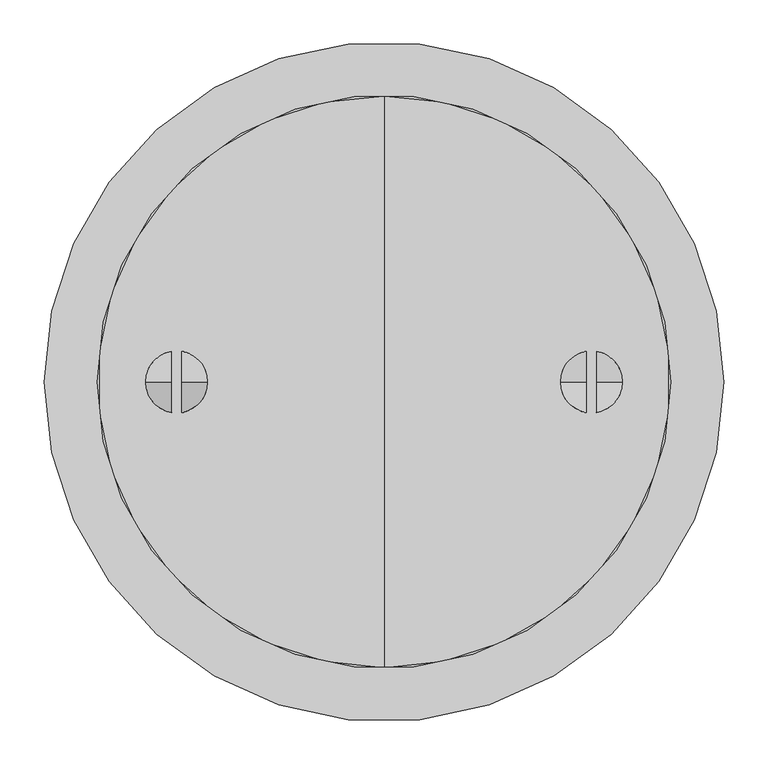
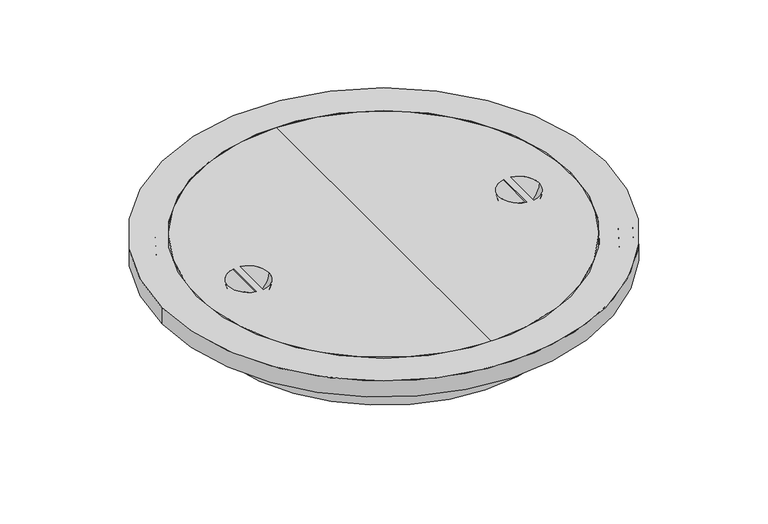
"""IFC4 building model written with IfcOpenShell, lengths in millimetres: proxy geometry, AWS PP Chamber Cover : AWS PP Chamber Cover."""

from ifc_helpers import new_model, si_unit, point, frame, origin, origin_with_axes, place, context, project, spatial, polyline, circle_curve, ellipse_curve, trimmed, source, transform, mapped, element, save
from ifc_brep_helpers import plane_surface, cylinder_surface, revolved_surface, advanced_brep


def generic_models_b64380c1(model_context):
    return source(origin(), model_context, "Body", "AdvancedBrep", [
        advanced_brep(
        [(305.9999723, 0.0, -51.9987901), (-305.9999723, 0.0, -51.9987901), (-305.9999723, 0.0, -99.9988455), (305.9999723, 0.0, -99.9988455), (324.0003741, 0.0, -60.0008312), (-324.0003741, 0.0, -60.0008312), (-324.0003741, 0.0, -51.9987901), (324.0003741, 0.0, -51.9987901), (330.0, 0.0, -13.9986192), (-330.0, 0.0, -13.9986192), (-330.0, 0.0, -60.0008312), (330.0, 0.0, -60.0008312), (339.5000427, 0.0, -31.999021), (-339.5000427, 0.0, -31.999021), (-339.5000427, 0.0, -13.9986192), (339.5000427, 0.0, -13.9986192), (345.5011926, 0.0, -12.9989356), (-345.5011926, 0.0, -12.9989356), (-345.5011926, 0.0, -31.999021), (345.5011926, 0.0, -31.999021), (355.0012353, 0.0, -27.9987624), (-355.0012353, 0.0, -27.9987624), (-355.0012353, 0.0, -12.9989356), (355.0012353, 0.0, -12.9989356), (363.0002286, 0.0, -12.9989356), (-363.0002286, 0.0, -12.9989356), (-363.0002286, 0.0, -27.9987624), (363.0002286, 0.0, -27.9987624), (377.0003717, 0.0, -29.9996537), (-377.0003717, 0.0, -29.9996537), (-377.0003717, 0.0, -12.9989356), (377.0003717, 0.0, -12.9989356), (384.999365, 0.0, 0.0), (-384.999365, 0.0, 0.0), (-384.999365, 0.0, -29.9996537), (384.999365, 0.0, -29.9996537), (325.0015816, 0.0, -29.9996537), (-325.0015816, 0.0, -29.9996537), (-325.0015816, 0.0, 0.0), (325.0015816, 0.0, 0.0), (302.9993974, 0.0, -24.9981875), (-302.9993974, 0.0, -24.9981875), (-302.9993974, 0.0, -29.9996537), (302.9993974, 0.0, -29.9996537), (298.000979, 0.0, -99.9988455), (-298.000979, 0.0, -99.9988455), (-298.000979, 0.0, -24.9981875), (298.000979, 0.0, -24.9981875)],
        [
            (0, 1, circle_curve(frame((0.0, 0.0, -51.9987901), z_axis=(0.0, 0.0, -1.0), x_axis=(-1.0, 0.0, 0.0)), 305.9999723)),
            (1, 2),
            (2, 3, circle_curve(frame((0.0, 0.0, -99.9988455), z_axis=(0.0, 0.0, 1.0), x_axis=(-1.0, 0.0, 0.0)), 305.9999723)),
            (3, 0),
            (4, 5, circle_curve(frame((0.0, 0.0, -60.0008312), z_axis=(0.0, 0.0, -1.0), x_axis=(-1.0, 0.0, 0.0)), 324.0003741)),
            (5, 6),
            (6, 7, circle_curve(frame((0.0, 0.0, -51.9987901), z_axis=(0.0, 0.0, 1.0), x_axis=(-1.0, 0.0, 0.0)), 324.0003741)),
            (7, 4),
            (8, 9, circle_curve(frame((0.0, 0.0, -13.9986192), z_axis=(0.0, 0.0, -1.0), x_axis=(-1.0, 0.0, 0.0)), 330.0)),
            (9, 10),
            (10, 11, circle_curve(frame((0.0, 0.0, -60.0008312), z_axis=(0.0, 0.0, 1.0), x_axis=(-1.0, 0.0, 0.0)), 330.0)),
            (11, 8),
            (12, 13, circle_curve(frame((0.0, 0.0, -31.999021), z_axis=(0.0, 0.0, -1.0), x_axis=(-1.0, 0.0, 0.0)), 339.5000427)),
            (13, 14),
            (14, 15, circle_curve(frame((0.0, 0.0, -13.9986192), z_axis=(0.0, 0.0, 1.0), x_axis=(-1.0, 0.0, 0.0)), 339.5000427)),
            (15, 12),
            (16, 17, circle_curve(frame((0.0, 0.0, -12.9989356), z_axis=(0.0, 0.0, -1.0), x_axis=(-1.0, 0.0, 0.0)), 345.5011926)),
            (17, 18),
            (18, 19, circle_curve(frame((0.0, 0.0, -31.999021), z_axis=(0.0, 0.0, 1.0), x_axis=(-1.0, 0.0, 0.0)), 345.5011926)),
            (19, 16),
            (20, 21, circle_curve(frame((0.0, 0.0, -27.9987624), z_axis=(0.0, 0.0, -1.0), x_axis=(-1.0, 0.0, 0.0)), 355.0012353)),
            (21, 22),
            (22, 23, circle_curve(frame((0.0, 0.0, -12.9989356), z_axis=(0.0, 0.0, 1.0), x_axis=(-1.0, 0.0, 0.0)), 355.0012353)),
            (23, 20),
            (24, 25, circle_curve(frame((0.0, 0.0, -12.9989356), z_axis=(0.0, 0.0, -1.0), x_axis=(-1.0, 0.0, 0.0)), 363.0002286)),
            (25, 26),
            (26, 27, circle_curve(frame((0.0, 0.0, -27.9987624), z_axis=(0.0, 0.0, 1.0), x_axis=(-1.0, 0.0, 0.0)), 363.0002286)),
            (27, 24),
            (28, 29, circle_curve(frame((0.0, 0.0, -29.9996537), z_axis=(0.0, 0.0, -1.0), x_axis=(-1.0, 0.0, 0.0)), 377.0003717)),
            (29, 30),
            (30, 31, circle_curve(frame((0.0, 0.0, -12.9989356), z_axis=(0.0, 0.0, 1.0), x_axis=(-1.0, 0.0, 0.0)), 377.0003717)),
            (31, 28),
            (32, 33, circle_curve(frame((0.0, 0.0, 0.0), z_axis=(0.0, 0.0, -1.0), x_axis=(-1.0, 0.0, 0.0)), 384.999365)),
            (33, 34),
            (34, 35, circle_curve(frame((0.0, 0.0, -29.9996537), z_axis=(0.0, 0.0, 1.0), x_axis=(-1.0, 0.0, 0.0)), 384.999365)),
            (35, 32),
            (36, 37, circle_curve(frame((0.0, 0.0, -29.9996537), z_axis=(0.0, 0.0, -1.0), x_axis=(-1.0, 0.0, 0.0)), 325.0015816)),
            (37, 38),
            (38, 39, circle_curve(frame((0.0, 0.0, 0.0), z_axis=(0.0, 0.0, 1.0), x_axis=(-1.0, 0.0, 0.0)), 325.0015816)),
            (39, 36),
            (40, 41, circle_curve(frame((0.0, 0.0, -24.9981875), z_axis=(0.0, 0.0, -1.0), x_axis=(-1.0, 0.0, 0.0)), 302.9993974)),
            (41, 42),
            (42, 43, circle_curve(frame((0.0, 0.0, -29.9996537), z_axis=(0.0, 0.0, 1.0), x_axis=(-1.0, 0.0, 0.0)), 302.9993974)),
            (43, 40),
            (44, 45, circle_curve(frame((0.0, 0.0, -99.9988455), z_axis=(0.0, 0.0, -1.0), x_axis=(-1.0, 0.0, 0.0)), 298.000979)),
            (45, 46),
            (46, 47, circle_curve(frame((0.0, 0.0, -24.9981875), z_axis=(0.0, 0.0, 1.0), x_axis=(-1.0, 0.0, 0.0)), 298.000979)),
            (47, 44),
            (2, 3, circle_curve(frame((0.0, 0.0, -99.9988455), z_axis=(0.0, 0.0, -1.0), x_axis=(1.0, 0.0, 0.0)), 305.9999723)),
            (44, 45, circle_curve(frame((0.0, 0.0, -99.9988455), z_axis=(0.0, 0.0, 1.0), x_axis=(1.0, 0.0, 0.0)), 298.000979)),
            (1, 0, circle_curve(frame((0.0, 0.0, -51.9987901), z_axis=(0.0, 0.0, -1.0), x_axis=(1.0, 0.0, 0.0)), 305.9999723)),
            (6, 7, circle_curve(frame((0.0, 0.0, -51.9987901), z_axis=(0.0, 0.0, -1.0), x_axis=(1.0, 0.0, 0.0)), 324.0003741)),
            (5, 4, circle_curve(frame((0.0, 0.0, -60.0008312), z_axis=(0.0, 0.0, -1.0), x_axis=(1.0, 0.0, 0.0)), 324.0003741)),
            (10, 11, circle_curve(frame((0.0, 0.0, -60.0008312), z_axis=(0.0, 0.0, -1.0), x_axis=(1.0, 0.0, 0.0)), 330.0)),
            (9, 8, circle_curve(frame((0.0, 0.0, -13.9986192), z_axis=(0.0, 0.0, -1.0), x_axis=(1.0, 0.0, 0.0)), 330.0)),
            (14, 15, circle_curve(frame((0.0, 0.0, -13.9986192), z_axis=(0.0, 0.0, -1.0), x_axis=(1.0, 0.0, 0.0)), 339.5000427)),
            (13, 12, circle_curve(frame((0.0, 0.0, -31.999021), z_axis=(0.0, 0.0, -1.0), x_axis=(1.0, 0.0, 0.0)), 339.5000427)),
            (18, 19, circle_curve(frame((0.0, 0.0, -31.999021), z_axis=(0.0, 0.0, -1.0), x_axis=(1.0, 0.0, 0.0)), 345.5011926)),
            (17, 16, circle_curve(frame((0.0, 0.0, -12.9989356), z_axis=(0.0, 0.0, -1.0), x_axis=(1.0, 0.0, 0.0)), 345.5011926)),
            (22, 23, circle_curve(frame((0.0, 0.0, -12.9989356), z_axis=(0.0, 0.0, -1.0), x_axis=(1.0, 0.0, 0.0)), 355.0012353)),
            (21, 20, circle_curve(frame((0.0, 0.0, -27.9987624), z_axis=(0.0, 0.0, -1.0), x_axis=(1.0, 0.0, 0.0)), 355.0012353)),
            (26, 27, circle_curve(frame((0.0, 0.0, -27.9987624), z_axis=(0.0, 0.0, -1.0), x_axis=(1.0, 0.0, 0.0)), 363.0002286)),
            (25, 24, circle_curve(frame((0.0, 0.0, -12.9989356), z_axis=(0.0, 0.0, -1.0), x_axis=(1.0, 0.0, 0.0)), 363.0002286)),
            (30, 31, circle_curve(frame((0.0, 0.0, -12.9989356), z_axis=(0.0, 0.0, -1.0), x_axis=(1.0, 0.0, 0.0)), 377.0003717)),
            (29, 28, circle_curve(frame((0.0, 0.0, -29.9996537), z_axis=(0.0, 0.0, -1.0), x_axis=(1.0, 0.0, 0.0)), 377.0003717)),
            (34, 35, circle_curve(frame((0.0, 0.0, -29.9996537), z_axis=(0.0, 0.0, -1.0), x_axis=(1.0, 0.0, 0.0)), 384.999365)),
            (33, 32, circle_curve(frame((0.0, 0.0, 0.0), z_axis=(0.0, 0.0, -1.0), x_axis=(1.0, 0.0, 0.0)), 384.999365)),
            (38, 39, circle_curve(frame((0.0, 0.0, 0.0), z_axis=(0.0, 0.0, -1.0), x_axis=(1.0, 0.0, 0.0)), 325.0015816)),
            (37, 36, circle_curve(frame((0.0, 0.0, -29.9996537), z_axis=(0.0, 0.0, -1.0), x_axis=(1.0, 0.0, 0.0)), 325.0015816)),
            (42, 43, circle_curve(frame((0.0, 0.0, -29.9996537), z_axis=(0.0, 0.0, -1.0), x_axis=(1.0, 0.0, 0.0)), 302.9993974)),
            (41, 40, circle_curve(frame((0.0, 0.0, -24.9981875), z_axis=(0.0, 0.0, -1.0), x_axis=(1.0, 0.0, 0.0)), 302.9993974)),
            (46, 47, circle_curve(frame((0.0, 0.0, -24.9981875), z_axis=(0.0, 0.0, -1.0), x_axis=(1.0, 0.0, 0.0)), 298.000979)),
        ],
        [
            cylinder_surface(frame((0.0, 0.0, 0.0), z_axis=(0.0, 0.0, 1.0), x_axis=(-1.0, 0.0, 0.0)), 305.9999723),
            revolved_surface(polyline([(-324.0003741, 0.0, -51.9987901), (-324.0003741, 0.0, -60.0008312)]), (0.0, 0.0, 0.0), (0.0, 0.0, 1.0)),
            cylinder_surface(frame((0.0, 0.0, 0.0), z_axis=(0.0, 0.0, 1.0), x_axis=(-1.0, 0.0, 0.0)), 330.0),
            revolved_surface(polyline([(-339.5000427, 0.0, -13.9986192), (-339.5000427, 0.0, -31.999021)]), (0.0, 0.0, 0.0), (0.0, 0.0, 1.0)),
            cylinder_surface(frame((0.0, 0.0, 0.0), z_axis=(0.0, 0.0, 1.0), x_axis=(-1.0, 0.0, 0.0)), 345.5011926),
            revolved_surface(polyline([(-355.0012353, 0.0, -12.9989356), (-355.0012353, 0.0, -27.9987624)]), (0.0, 0.0, 0.0), (0.0, 0.0, 1.0)),
            cylinder_surface(frame((0.0, 0.0, 0.0), z_axis=(0.0, 0.0, 1.0), x_axis=(-1.0, 0.0, 0.0)), 363.0002286),
            revolved_surface(polyline([(-377.0003717, 0.0, -12.9989356), (-377.0003717, 0.0, -29.9996537)]), (0.0, 0.0, 0.0), (0.0, 0.0, 1.0)),
            cylinder_surface(frame((0.0, 0.0, 0.0), z_axis=(0.0, 0.0, 1.0), x_axis=(-1.0, 0.0, 0.0)), 384.999365),
            revolved_surface(polyline([(-325.0015816, 0.0, 0.0), (-325.0015816, 0.0, -29.9996537)]), (0.0, 0.0, 0.0), (0.0, 0.0, 1.0)),
            cylinder_surface(frame((0.0, 0.0, 0.0), z_axis=(0.0, 0.0, 1.0), x_axis=(-1.0, 0.0, 0.0)), 302.9993974),
            revolved_surface(polyline([(-298.000979, 0.0, -24.9981875), (-298.000979, 0.0, -99.9988455)]), (0.0, 0.0, 0.0), (0.0, 0.0, 1.0)),
            plane_surface(frame((0.0, 0.0, -99.9988455), z_axis=(0.0, 0.0, -1.0), x_axis=(1.0, 0.0, 0.0))),
            cylinder_surface(origin_with_axes(), 305.9999723),
            plane_surface(frame((0.0, 0.0, -51.9987901), z_axis=(0.0, 0.0, -1.0), x_axis=(1.0, 0.0, 0.0))),
            revolved_surface(polyline([(324.0003741, 0.0, -51.9987901), (324.0003741, 0.0, -60.0008312)]), (0.0, 0.0, 0.0), (0.0, 0.0, 1.0)),
            plane_surface(frame((0.0, 0.0, -60.0008312), z_axis=(0.0, 0.0, -1.0), x_axis=(1.0, 0.0, 0.0))),
            cylinder_surface(origin_with_axes(), 330.0),
            plane_surface(frame((0.0, 0.0, -13.9986192), z_axis=(0.0, 0.0, -1.0), x_axis=(1.0, 0.0, 0.0))),
            revolved_surface(polyline([(339.5000427, 0.0, -13.9986192), (339.5000427, 0.0, -31.999021)]), (0.0, 0.0, 0.0), (0.0, 0.0, 1.0)),
            plane_surface(frame((0.0, 0.0, -31.999021), z_axis=(0.0, 0.0, -1.0), x_axis=(1.0, 0.0, 0.0))),
            cylinder_surface(origin_with_axes(), 345.5011926),
            plane_surface(frame((0.0, 0.0, -12.9989356), z_axis=(0.0, 0.0, -1.0), x_axis=(1.0, 0.0, 0.0))),
            revolved_surface(polyline([(355.0012353, 0.0, -12.9989356), (355.0012353, 0.0, -27.9987624)]), (0.0, 0.0, 0.0), (0.0, 0.0, 1.0)),
            plane_surface(frame((0.0, 0.0, -27.9987624), z_axis=(0.0, 0.0, -1.0), x_axis=(1.0, 0.0, 0.0))),
            cylinder_surface(origin_with_axes(), 363.0002286),
            revolved_surface(polyline([(377.0003717, 0.0, -12.9989356), (377.0003717, 0.0, -29.9996537)]), (0.0, 0.0, 0.0), (0.0, 0.0, 1.0)),
            plane_surface(frame((0.0, 0.0, -29.9996537), z_axis=(0.0, 0.0, -1.0), x_axis=(1.0, 0.0, 0.0))),
            cylinder_surface(origin_with_axes(), 384.999365),
            plane_surface(origin_with_axes()),
            revolved_surface(polyline([(325.0015816, 0.0, 0.0), (325.0015816, 0.0, -29.9996537)]), (0.0, 0.0, 0.0), (0.0, 0.0, 1.0)),
            plane_surface(frame((0.0, 0.0, -29.9996537), z_axis=(0.0, 0.0, 1.0), x_axis=(1.0, 0.0, 0.0))),
            cylinder_surface(origin_with_axes(), 302.9993974),
            plane_surface(frame((0.0, 0.0, -24.9981875), z_axis=(0.0, 0.0, 1.0), x_axis=(1.0, 0.0, 0.0))),
            revolved_surface(polyline([(298.000979, 0.0, -24.9981875), (298.000979, 0.0, -99.9988455)]), (0.0, 0.0, 0.0), (0.0, 0.0, 1.0)),
        ],
        [
            (0, [[1, 2, 3, 4]]),
            (1, [[5, 6, 7, 8]]),
            (2, [[9, 10, 11, 12]]),
            (3, [[13, 14, 15, 16]]),
            (4, [[17, 18, 19, 20]]),
            (5, [[21, 22, 23, 24]]),
            (6, [[25, 26, 27, 28]]),
            (7, [[29, 30, 31, 32]]),
            (8, [[33, 34, 35, 36]]),
            (9, [[37, 38, 39, 40]]),
            (10, [[41, 42, 43, 44]]),
            (11, [[45, 46, 47, 48]]),
            (12, [[49, -3], [50, -45]]),
            (13, [[51, -4, -49, -2]]),
            (14, [[52, -7], [-51, -1]]),
            (15, [[53, -8, -52, -6]]),
            (16, [[54, -11], [-53, -5]]),
            (17, [[55, -12, -54, -10]]),
            (18, [[56, -15], [-55, -9]]),
            (19, [[57, -16, -56, -14]]),
            (20, [[58, -19], [-57, -13]]),
            (21, [[59, -20, -58, -18]]),
            (22, [[60, -23], [-59, -17]]),
            (23, [[61, -24, -60, -22]]),
            (24, [[62, -27], [-61, -21]]),
            (25, [[63, -28, -62, -26]]),
            (22, [[64, -31], [-63, -25]]),
            (26, [[65, -32, -64, -30]]),
            (27, [[66, -35], [-65, -29]]),
            (28, [[67, -36, -66, -34]]),
            (29, [[-67, -33], [68, -39]]),
            (30, [[69, -40, -68, -38]]),
            (31, [[-69, -37], [70, -43]]),
            (32, [[71, -44, -70, -42]]),
            (33, [[-71, -41], [72, -47]]),
            (34, [[-50, -48, -72, -46]]),
        ],
    ),
        advanced_brep(
        [(0.0, 302.9986354, -29.9996537), (0.0, -302.9986354, -29.9996537), (0.0, -323.9996121, -29.9996537), (0.0, 323.9996121, -29.9996537), (0.0, 302.9986354, -23.9985038), (0.0, -302.9986354, -23.9985038), (0.0, 297.0005334, -23.9985038), (0.0, -297.0005334, -23.9985038), (0.0, 297.0005334, -49.9978989), (0.0, -297.0005334, -49.9978989), (0.0, 289.9996998, -49.9978989), (0.0, -289.9996998, -49.9978989), (0.0, 289.9996998, -13.9986192), (0.0, -289.9996998, -13.9986192), (0.0, 272.4991399, -13.9986192), (0.0, -272.4991399, -13.9986192), (0.0, 272.4991399, -43.9997968), (0.0, -272.4991399, -43.9997968), (0.0, 149.9997922, -43.9997968), (0.0, -149.9997922, -43.9997968), (0.0, 149.9997922, -13.9986192), (0.0, -149.9997922, -13.9986192), (0.0, 124.9985569, -13.9986192), (0.0, -124.9985569, -13.9986192), (0.0, 124.9985569, -49.9978989), (0.0, -124.9985569, -49.9978989), (0.0, 115.0001963, -49.9978989), (0.0, -115.0001963, -49.9978989), (0.0, 115.0001963, -13.9986192), (0.0, -115.0001963, -13.9986192), (0.0, 29.9996537, -13.9986192), (0.0, -29.9996537, -13.9986192), (0.0, 29.9996537, -49.9978989), (0.0, -29.9996537, -49.9978989), (0.0, 0.0, -49.9978989), (0.0, 323.9996121, 0.0), (0.0, -323.9996121, 0.0), (0.0, 0.0, 0.0), (-229.0, 34.4675478, 0.0), (-200.0141192, 0.0, 0.0), (-229.0, -34.4675478, 0.0), (-269.9858808, 0.0, 0.0), (-241.0, 34.4675478, 0.0), (-241.0, -34.4675478, 0.0), (200.0141192, 0.0, 0.0), (229.0, 34.4675478, 0.0), (229.0, -34.4675478, 0.0), (269.9858808, 0.0, 0.0), (241.0, -34.4675478, 0.0), (241.0, 34.4675478, 0.0), (-235.0, 0.0, -34.9858808), (235.0, 0.0, -34.9858808)],
        [
            (0, 1, circle_curve(frame((0.0, 0.0, -29.9996537), z_axis=(0.0, 0.0, 1.0), x_axis=(0.0, -1.0, 0.0)), 302.9986354)),
            (1, 2),
            (2, 3, circle_curve(frame((0.0, 0.0, -29.9996537), z_axis=(0.0, 0.0, -1.0), x_axis=(0.0, -1.0, 0.0)), 323.9996121)),
            (3, 0),
            (1, 0, circle_curve(frame((0.0, 0.0, -29.9996537), z_axis=(0.0, 0.0, 1.0), x_axis=(0.0, -1.0, 0.0)), 302.9986354)),
            (3, 2, circle_curve(frame((0.0, 0.0, -29.9996537), z_axis=(0.0, 0.0, -1.0), x_axis=(0.0, -1.0, 0.0)), 323.9996121)),
            (0, 4),
            (4, 5, circle_curve(frame((0.0, 0.0, -23.9985038), z_axis=(0.0, 0.0, 1.0), x_axis=(0.0, -1.0, 0.0)), 302.9986354)),
            (5, 1),
            (5, 4, circle_curve(frame((0.0, 0.0, -23.9985038), z_axis=(0.0, 0.0, 1.0), x_axis=(0.0, -1.0, 0.0)), 302.9986354)),
            (4, 6),
            (6, 7, circle_curve(frame((0.0, 0.0, -23.9985038), z_axis=(0.0, 0.0, 1.0), x_axis=(0.0, -1.0, 0.0)), 297.0005334)),
            (7, 5),
            (7, 6, circle_curve(frame((0.0, 0.0, -23.9985038), z_axis=(0.0, 0.0, 1.0), x_axis=(0.0, -1.0, 0.0)), 297.0005334)),
            (6, 8),
            (8, 9, circle_curve(frame((0.0, 0.0, -49.9978989), z_axis=(0.0, 0.0, 1.0), x_axis=(0.0, -1.0, 0.0)), 297.0005334)),
            (9, 7),
            (9, 8, circle_curve(frame((0.0, 0.0, -49.9978989), z_axis=(0.0, 0.0, 1.0), x_axis=(0.0, -1.0, 0.0)), 297.0005334)),
            (8, 10),
            (10, 11, circle_curve(frame((0.0, 0.0, -49.9978989), z_axis=(0.0, 0.0, 1.0), x_axis=(0.0, -1.0, 0.0)), 289.9996998)),
            (11, 9),
            (11, 10, circle_curve(frame((0.0, 0.0, -49.9978989), z_axis=(0.0, 0.0, 1.0), x_axis=(0.0, -1.0, 0.0)), 289.9996998)),
            (10, 12),
            (12, 13, circle_curve(frame((0.0, 0.0, -13.9986192), z_axis=(0.0, 0.0, 1.0), x_axis=(0.0, -1.0, 0.0)), 289.9996998)),
            (13, 11),
            (13, 12, circle_curve(frame((0.0, 0.0, -13.9986192), z_axis=(0.0, 0.0, 1.0), x_axis=(0.0, -1.0, 0.0)), 289.9996998)),
            (12, 14),
            (14, 15, circle_curve(frame((0.0, 0.0, -13.9986192), z_axis=(0.0, 0.0, 1.0), x_axis=(0.0, -1.0, 0.0)), 272.4991399)),
            (15, 13),
            (15, 14, circle_curve(frame((0.0, 0.0, -13.9986192), z_axis=(0.0, 0.0, 1.0), x_axis=(0.0, -1.0, 0.0)), 272.4991399)),
            (14, 16),
            (16, 17, circle_curve(frame((0.0, 0.0, -43.9997968), z_axis=(0.0, 0.0, 1.0), x_axis=(0.0, -1.0, 0.0)), 272.4991399)),
            (17, 15),
            (17, 16, circle_curve(frame((0.0, 0.0, -43.9997968), z_axis=(0.0, 0.0, 1.0), x_axis=(0.0, -1.0, 0.0)), 272.4991399)),
            (16, 18),
            (18, 19, circle_curve(frame((0.0, 0.0, -43.9997968), z_axis=(0.0, 0.0, 1.0), x_axis=(0.0, -1.0, 0.0)), 149.9997922)),
            (19, 17),
            (19, 18, circle_curve(frame((0.0, 0.0, -43.9997968), z_axis=(0.0, 0.0, 1.0), x_axis=(0.0, -1.0, 0.0)), 149.9997922)),
            (18, 20),
            (20, 21, circle_curve(frame((0.0, 0.0, -13.9986192), z_axis=(0.0, 0.0, 1.0), x_axis=(0.0, -1.0, 0.0)), 149.9997922)),
            (21, 19),
            (21, 20, circle_curve(frame((0.0, 0.0, -13.9986192), z_axis=(0.0, 0.0, 1.0), x_axis=(0.0, -1.0, 0.0)), 149.9997922)),
            (20, 22),
            (22, 23, circle_curve(frame((0.0, 0.0, -13.9986192), z_axis=(0.0, 0.0, 1.0), x_axis=(0.0, -1.0, 0.0)), 124.9985569)),
            (23, 21),
            (23, 22, circle_curve(frame((0.0, 0.0, -13.9986192), z_axis=(0.0, 0.0, 1.0), x_axis=(0.0, -1.0, 0.0)), 124.9985569)),
            (22, 24),
            (24, 25, circle_curve(frame((0.0, 0.0, -49.9978989), z_axis=(0.0, 0.0, 1.0), x_axis=(0.0, -1.0, 0.0)), 124.9985569)),
            (25, 23),
            (25, 24, circle_curve(frame((0.0, 0.0, -49.9978989), z_axis=(0.0, 0.0, 1.0), x_axis=(0.0, -1.0, 0.0)), 124.9985569)),
            (24, 26),
            (26, 27, circle_curve(frame((0.0, 0.0, -49.9978989), z_axis=(0.0, 0.0, 1.0), x_axis=(0.0, -1.0, 0.0)), 115.0001963)),
            (27, 25),
            (27, 26, circle_curve(frame((0.0, 0.0, -49.9978989), z_axis=(0.0, 0.0, 1.0), x_axis=(0.0, -1.0, 0.0)), 115.0001963)),
            (26, 28),
            (28, 29, circle_curve(frame((0.0, 0.0, -13.9986192), z_axis=(0.0, 0.0, 1.0), x_axis=(0.0, -1.0, 0.0)), 115.0001963)),
            (29, 27),
            (29, 28, circle_curve(frame((0.0, 0.0, -13.9986192), z_axis=(0.0, 0.0, 1.0), x_axis=(0.0, -1.0, 0.0)), 115.0001963)),
            (28, 30),
            (30, 31, circle_curve(frame((0.0, 0.0, -13.9986192), z_axis=(0.0, 0.0, 1.0), x_axis=(0.0, -1.0, 0.0)), 29.9996537)),
            (31, 29),
            (31, 30, circle_curve(frame((0.0, 0.0, -13.9986192), z_axis=(0.0, 0.0, 1.0), x_axis=(0.0, -1.0, 0.0)), 29.9996537)),
            (30, 32),
            (32, 33, circle_curve(frame((0.0, 0.0, -49.9978989), z_axis=(0.0, 0.0, 1.0), x_axis=(0.0, -1.0, 0.0)), 29.9996537)),
            (33, 31),
            (33, 32, circle_curve(frame((0.0, 0.0, -49.9978989), z_axis=(0.0, 0.0, 1.0), x_axis=(0.0, -1.0, 0.0)), 29.9996537)),
            (32, 34),
            (34, 33),
            (35, 36, circle_curve(frame((0.0, 0.0, 0.0), z_axis=(0.0, 0.0, 1.0), x_axis=(0.0, -1.0, 0.0)), 323.9996121)),
            (36, 37),
            (37, 35),
            (38, 39, circle_curve(frame((-235.0, 0.0, 0.0), z_axis=(0.0, 0.0, -1.0), x_axis=(-1.0, 0.0, 0.0)), 34.9858808)),
            (39, 40, circle_curve(frame((-235.0, 0.0, 0.0), z_axis=(0.0, 0.0, -1.0), x_axis=(-1.0, 0.0, 0.0)), 34.9858808)),
            (40, 38),
            (41, 42, circle_curve(frame((-235.0, 0.0, 0.0), z_axis=(0.0, 0.0, -1.0), x_axis=(-1.0, 0.0, 0.0)), 34.9858808)),
            (42, 43),
            (43, 41, circle_curve(frame((-235.0, 0.0, 0.0), z_axis=(0.0, 0.0, -1.0), x_axis=(-1.0, 0.0, 0.0)), 34.9858808)),
            (36, 35, circle_curve(frame((0.0, 0.0, 0.0), z_axis=(0.0, 0.0, 1.0), x_axis=(0.0, -1.0, 0.0)), 323.9996121)),
            (44, 45, circle_curve(frame((235.0, 0.0, 0.0), z_axis=(0.0, 0.0, -1.0), x_axis=(1.0, 0.0, 0.0)), 34.9858808)),
            (45, 46),
            (46, 44, circle_curve(frame((235.0, 0.0, 0.0), z_axis=(0.0, 0.0, -1.0), x_axis=(1.0, 0.0, 0.0)), 34.9858808)),
            (47, 48, circle_curve(frame((235.0, 0.0, 0.0), z_axis=(0.0, 0.0, -1.0), x_axis=(1.0, 0.0, 0.0)), 34.9858808)),
            (48, 49),
            (49, 47, circle_curve(frame((235.0, 0.0, 0.0), z_axis=(0.0, 0.0, -1.0), x_axis=(1.0, 0.0, 0.0)), 34.9858808)),
            (2, 36),
            (35, 3),
            (50, 39, circle_curve(frame((-235.0, 0.0, 0.0), z_axis=(0.0, -1.0, 0.0), x_axis=(-1.0, 0.0, 0.0)), 34.9858808)),
            (38, 42, circle_curve(frame((-235.0, 34.4675478, 0.0), z_axis=(0.0, 1.0, 0.0), x_axis=(1.0, 0.0, 0.0)), 6.0)),
            (41, 50, circle_curve(frame((-235.0, 0.0, 0.0), z_axis=(0.0, -1.0, 0.0), x_axis=(1.0, 0.0, 0.0)), 34.9858808)),
            (43, 40, circle_curve(frame((-235.0, -34.4675478, 0.0), z_axis=(0.0, -1.0, 0.0), x_axis=(1.0, 0.0, 0.0)), 6.0)),
            (44, 51, circle_curve(frame((235.0, 0.0, 0.0), z_axis=(0.0, -1.0, 0.0), x_axis=(1.0, 0.0, 0.0)), 34.9858808)),
            (51, 47, circle_curve(frame((235.0, 0.0, 0.0), z_axis=(0.0, -1.0, 0.0), x_axis=(-1.0, 0.0, 0.0)), 34.9858808)),
            (49, 45, circle_curve(frame((235.0, 34.4675478, 0.0), z_axis=(0.0, 1.0, 0.0), x_axis=(-1.0, 0.0, 0.0)), 6.0)),
            (46, 48, circle_curve(frame((235.0, -34.4675478, 0.0), z_axis=(0.0, -1.0, 0.0), x_axis=(-1.0, 0.0, 0.0)), 6.0)),
        ],
        [
            plane_surface(frame((0.0, 0.0, -29.9996537), z_axis=(0.0, 0.0, -1.0), x_axis=(0.0, -1.0, 0.0))),
            revolved_surface(polyline([(0.0, -302.9986354, -29.999653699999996), (0.0, -302.9986354, -23.998503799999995)]), (0.0, 0.0, -99.9988455), (0.0, 0.0, -1.0)),
            plane_surface(frame((0.0, 0.0, -23.9985038), z_axis=(0.0, 0.0, -1.0), x_axis=(0.0, -1.0, 0.0))),
            cylinder_surface(frame((0.0, 0.0, -99.9988455), z_axis=(0.0, 0.0, -1.0), x_axis=(0.0, -1.0, 0.0)), 297.0005334),
            plane_surface(frame((0.0, 0.0, -49.9978989), z_axis=(0.0, 0.0, -1.0), x_axis=(0.0, -1.0, 0.0))),
            revolved_surface(polyline([(0.0, -289.9996998, -49.9978989), (0.0, -289.9996998, -13.998619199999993)]), (0.0, 0.0, -99.9988455), (0.0, 0.0, -1.0)),
            plane_surface(frame((0.0, 0.0, -13.9986192), z_axis=(0.0, 0.0, -1.0), x_axis=(0.0, -1.0, 0.0))),
            cylinder_surface(frame((0.0, 0.0, -99.9988455), z_axis=(0.0, 0.0, -1.0), x_axis=(0.0, -1.0, 0.0)), 272.4991399),
            plane_surface(frame((0.0, 0.0, -43.9997968), z_axis=(0.0, 0.0, -1.0), x_axis=(0.0, -1.0, 0.0))),
            revolved_surface(polyline([(0.0, -149.9997922, -43.9997968), (0.0, -149.9997922, -13.998619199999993)]), (0.0, 0.0, -99.9988455), (0.0, 0.0, -1.0)),
            cylinder_surface(frame((0.0, 0.0, -99.9988455), z_axis=(0.0, 0.0, -1.0), x_axis=(0.0, -1.0, 0.0)), 124.9985569),
            revolved_surface(polyline([(0.0, -115.0001963, -49.9978989), (0.0, -115.0001963, -13.998619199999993)]), (0.0, 0.0, -99.9988455), (0.0, 0.0, -1.0)),
            cylinder_surface(frame((0.0, 0.0, -99.9988455), z_axis=(0.0, 0.0, -1.0), x_axis=(0.0, -1.0, 0.0)), 29.9996537),
            plane_surface(frame((0.0, 0.0, 0.0), z_axis=(0.0, 0.0, 1.0), x_axis=(0.0, -1.0, 0.0))),
            cylinder_surface(frame((0.0, 0.0, -99.9988455), z_axis=(0.0, 0.0, -1.0), x_axis=(0.0, -1.0, 0.0)), 323.9996121),
            revolved_surface(trimmed(ellipse_curve(frame((-235.0, 0.0, 0.0), z_axis=(0.0, 1.0, 0.0), x_axis=(1.0, 0.0, 0.0)), 34.9858808, 34.9858808), [point((-235.0, 0.0, -34.9858808))], [point((-269.9858808, 0.0, 0.0))], True, "CARTESIAN"), (-235.0, 0.0, 0.0), (0.0, 0.0, -1.0)),
            cylinder_surface(frame((-235.0, 35.0, 0.0), z_axis=(0.0, -1.0, 0.0), x_axis=(1.0, 0.0, 0.0)), 6.0),
            revolved_surface(trimmed(ellipse_curve(frame((235.0, 0.0, 0.0), z_axis=(0.0, 1.0, 0.0), x_axis=(-1.0, 0.0, 0.0)), 34.9858808, 34.9858808), [point((269.9858808, 0.0, 0.0))], [point((235.0, 0.0, -34.9858808))], True, "CARTESIAN"), (235.0, 0.0, 0.0), (0.0, 0.0, 1.0)),
            cylinder_surface(frame((235.0, 35.0, 0.0), z_axis=(0.0, -1.0, 0.0), x_axis=(-1.0, 0.0, 0.0)), 6.0),
        ],
        [
            (0, [[1, 2, 3, 4]]),
            (0, [[-2, 5, -4, 6]]),
            (1, [[-1, 7, 8, 9]]),
            (1, [[-5, -9, 10, -7]]),
            (2, [[-8, 11, 12, 13]]),
            (2, [[-10, -13, 14, -11]]),
            (3, [[-12, 15, 16, 17]]),
            (3, [[-14, -17, 18, -15]]),
            (4, [[-16, 19, 20, 21]]),
            (4, [[-18, -21, 22, -19]]),
            (5, [[-20, 23, 24, 25]]),
            (5, [[-22, -25, 26, -23]]),
            (6, [[-24, 27, 28, 29]]),
            (6, [[-26, -29, 30, -27]]),
            (7, [[-28, 31, 32, 33]]),
            (7, [[-30, -33, 34, -31]]),
            (8, [[-32, 35, 36, 37]]),
            (8, [[-34, -37, 38, -35]]),
            (9, [[-36, 39, 40, 41]]),
            (9, [[-38, -41, 42, -39]]),
            (6, [[-40, 43, 44, 45]]),
            (6, [[-42, -45, 46, -43]]),
            (10, [[-44, 47, 48, 49]]),
            (10, [[-46, -49, 50, -47]]),
            (4, [[-48, 51, 52, 53]]),
            (4, [[-50, -53, 54, -51]]),
            (11, [[-52, 55, 56, 57]]),
            (11, [[-54, -57, 58, -55]]),
            (6, [[-56, 59, 60, 61]]),
            (6, [[-58, -61, 62, -59]]),
            (12, [[-60, 63, 64, 65]]),
            (12, [[-62, -65, 66, -63]]),
            (4, [[-64, 67, 68]]),
            (4, [[-66, -68, -67]]),
            (13, [[69, 70, 71], [72, 73, 74], [75, 76, 77]]),
            (13, [[-70, 78, -71], [79, 80, 81], [82, 83, 84]]),
            (14, [[-3, 85, -69, 86]]),
            (14, [[-6, -86, -78, -85]]),
            (15, [[87, -72, 88, -75, 89]]),
            (15, [[-87, -89, -77, 90, -73]]),
            (16, [[-76, -88, -74, -90]]),
            (17, [[91, 92, -84, 93, -79]]),
            (17, [[-91, -81, 94, -82, -92]]),
            (18, [[-83, -94, -80, -93]]),
        ],
    ),
    ])


if __name__ == "__main__":
    model = new_model("IFC4")
    model_context = context("Model", 3, world=origin())
    ifc_project = project(units=[si_unit("LENGTHUNIT", "METRE", prefix="MILLI")], contexts=[model_context])
    site = spatial("IfcSite", under=ifc_project)
    building = spatial("IfcBuilding", under=site)
    placement = place(None, origin())
    generic_models_shape = generic_models_b64380c1(model_context)
    element("IfcBuildingElementProxy", 1, Name="AWS PP Chamber Cover : AWS PP Chamber Cover", ObjectType="AWS PP Chamber Cover : AWS PP Chamber Cover", at=placement, inside=building, context=model_context, shape_type="MappedRepresentation", body=[
        mapped(generic_models_shape, transform((0.0, 0.0, 0.0), x_axis=(1.0, 0.0, 0.0), y_axis=(0.0, 1.0, 0.0), z_axis=(0.0, 0.0, 1.0))),
    ])
    save(model, "model.ifc")
